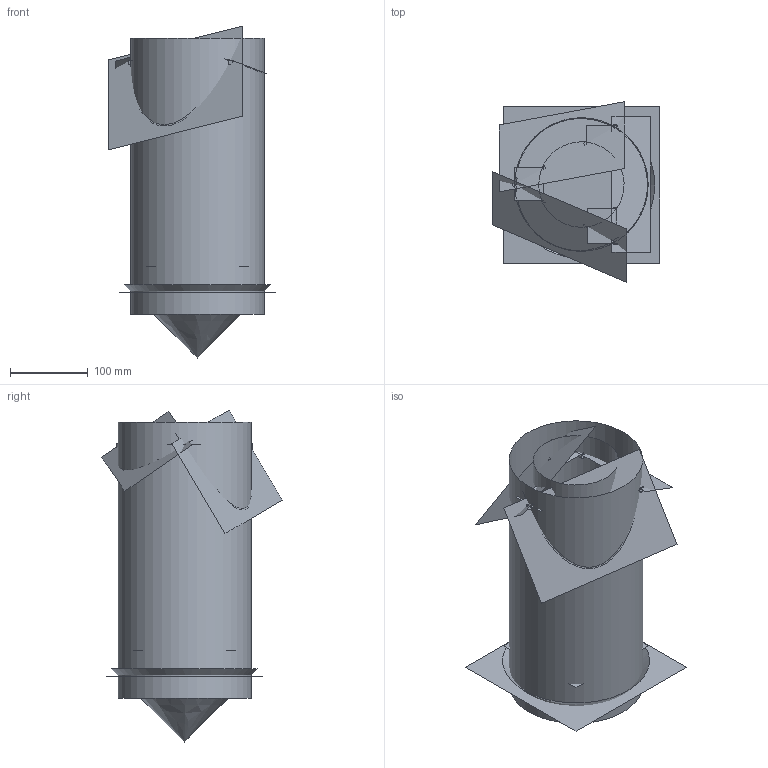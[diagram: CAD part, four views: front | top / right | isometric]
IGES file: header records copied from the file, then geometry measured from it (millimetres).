
Global section: file name: C:\Users\utente\Desktop\3d sito\PAROS H\PAROS H.igs; native system: Rhinoceros ( Mar  9 2011 ); preprocessor: Trout Lake IGES 012 Mar  9 2011; date: 170531.101814; units: millimetre
Bounding box: 215.52 x 232.73 x 427.93 mm (x, y, z)
Surface area: 472427.3 mm2 (no closed solid volume)
Topology: 0 solids, 0 shells, 23 faces, 82 edges, 72 vertices
Faces by surface type: bspline 23
